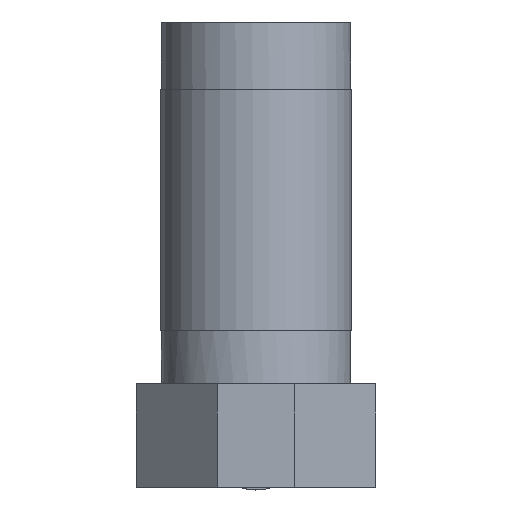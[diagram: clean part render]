
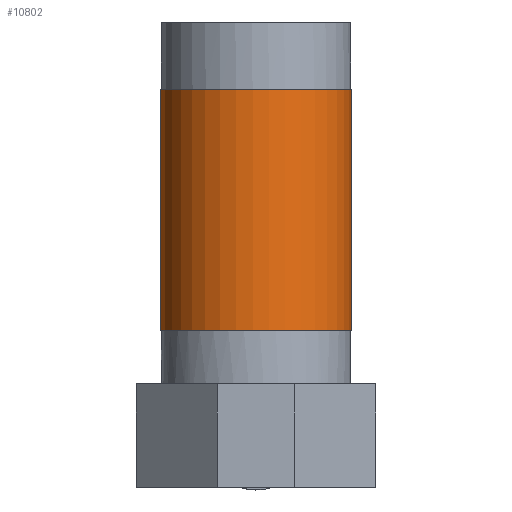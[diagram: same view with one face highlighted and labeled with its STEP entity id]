
A CAD part, left-side view. The second image highlights one B-rep face of the part: STEP entity #10802.
In plain terms, the highlighted cylindrical face has radius 17.59 mm (diameter 35.179 mm), a full revolution.
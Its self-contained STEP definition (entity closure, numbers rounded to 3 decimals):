
#132=CYLINDRICAL_SURFACE('',#11400,17.59);
#863=FACE_OUTER_BOUND('',#3702,.T.);
#3110=FACE_BOUND('',#3703,.T.);
#3702=EDGE_LOOP('',(#8685));
#3703=EDGE_LOOP('',(#8686));
#4006=CIRCLE('',#11401,17.59);
#4007=CIRCLE('',#11402,17.59);
#4893=VERTEX_POINT('',#17652);
#4894=VERTEX_POINT('',#17654);
#6202=EDGE_CURVE('',#4893,#4893,#4006,.T.);
#6203=EDGE_CURVE('',#4894,#4894,#4007,.T.);
#8685=ORIENTED_EDGE('',*,*,#6202,.T.);
#8686=ORIENTED_EDGE('',*,*,#6203,.F.);
#10802=ADVANCED_FACE('',(#863,#3110),#132,.T.);
#11400=AXIS2_PLACEMENT_3D('',#17651,#13432,#13433);
#11401=AXIS2_PLACEMENT_3D('',#17653,#13434,#13435);
#11402=AXIS2_PLACEMENT_3D('',#17655,#13436,#13437);
#13432=DIRECTION('center_axis',(0.,0.,
1.));
#13433=DIRECTION('ref_axis',(-0.951,-0.308,0.));
#13434=DIRECTION('center_axis',(0.,0.,
-1.));
#13435=DIRECTION('ref_axis',(-0.951,-0.308,0.));
#13436=DIRECTION('center_axis',(0.,0.,
-1.));
#13437=DIRECTION('ref_axis',(-0.951,-0.308,0.));
#17651=CARTESIAN_POINT('Origin',(-31.647,5.74,43.544));
#17652=CARTESIAN_POINT('',(-14.915,11.165,87.994));
#17653=CARTESIAN_POINT('Origin',(-31.647,5.74,87.994));
#17654=CARTESIAN_POINT('',(-14.915,11.165,43.544));
#17655=CARTESIAN_POINT('Origin',(-31.647,5.74,43.544));
